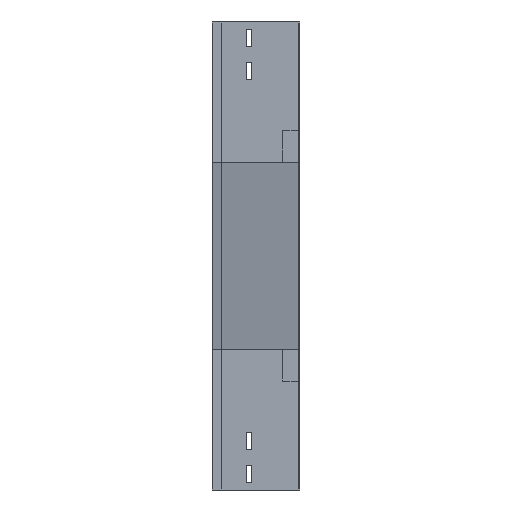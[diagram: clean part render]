
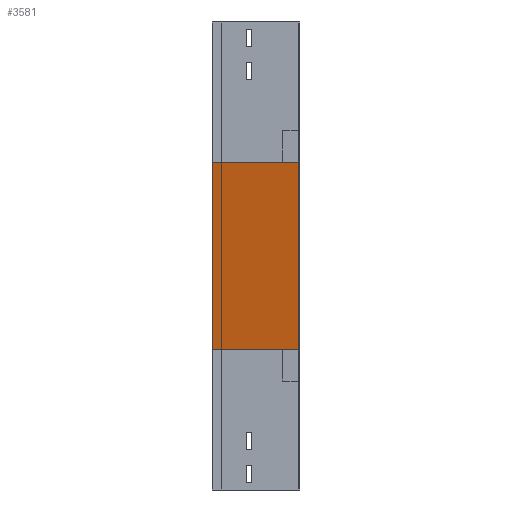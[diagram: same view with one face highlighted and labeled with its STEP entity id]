
A CAD part, left-side view. The second image highlights one B-rep face of the part: STEP entity #3581.
In plain terms, the highlighted planar face has unit normal (-0.979, 0, -0.204).
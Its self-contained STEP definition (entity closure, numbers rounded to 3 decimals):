
#4 = VERTEX_POINT ( 'NONE', #1993 ) ;
#146 = ORIENTED_EDGE ( 'NONE', *, *, #193, .F. ) ;
#193 = EDGE_CURVE ( 'NONE', #2523, #4, #230, .T. ) ;
#230 = LINE ( 'NONE', #2691, #3773 ) ;
#357 = DIRECTION ( 'NONE',  ( 0.204, 0., -0.979 ) ) ;
#398 = VECTOR ( 'NONE', #2767, 1000. ) ;
#427 = CARTESIAN_POINT ( 'NONE',  ( 50., 0., -420. ) ) ;
#492 = VERTEX_POINT ( 'NONE', #2320 ) ;
#541 = VECTOR ( 'NONE', #2987, 1000. ) ;
#921 = LINE ( 'NONE', #1196, #3044 ) ;
#1196 = CARTESIAN_POINT ( 'NONE',  ( 50., 0., -420. ) ) ;
#1277 = EDGE_CURVE ( 'NONE', #2574, #492, #921, .T. ) ;
#1808 = CARTESIAN_POINT ( 'NONE',  ( 0., 112.5, -180. ) ) ;
#1950 = EDGE_CURVE ( 'NONE', #4, #2574, #2745, .T. ) ;
#1993 = CARTESIAN_POINT ( 'NONE',  ( 0., 0., -180. ) ) ;
#2078 = LINE ( 'NONE', #1808, #541 ) ;
#2146 = CARTESIAN_POINT ( 'NONE',  ( 0., 0., -180. ) ) ;
#2181 = FACE_OUTER_BOUND ( 'NONE', #3250, .T. ) ;
#2215 = PLANE ( 'NONE',  #2993 ) ;
#2320 = CARTESIAN_POINT ( 'NONE',  ( 50., 112.5, -420. ) ) ;
#2403 = ORIENTED_EDGE ( 'NONE', *, *, #2580, .T. ) ;
#2473 = ORIENTED_EDGE ( 'NONE', *, *, #1950, .F. ) ;
#2523 = VERTEX_POINT ( 'NONE', #3549 ) ;
#2574 = VERTEX_POINT ( 'NONE', #427 ) ;
#2580 = EDGE_CURVE ( 'NONE', #2523, #492, #2078, .T. ) ;
#2691 = CARTESIAN_POINT ( 'NONE',  ( 0., 0., -180. ) ) ;
#2745 = LINE ( 'NONE', #2146, #398 ) ;
#2767 = DIRECTION ( 'NONE',  ( 0.204, 0., -0.979 ) ) ;
#2791 = ORIENTED_EDGE ( 'NONE', *, *, #1277, .F. ) ;
#2813 = DIRECTION ( 'NONE',  ( 0., 1., 0. ) ) ;
#2987 = DIRECTION ( 'NONE',  ( 0.204, 0., -0.979 ) ) ;
#2993 = AXIS2_PLACEMENT_3D ( 'NONE', #3441, #3124, #357 ) ;
#3044 = VECTOR ( 'NONE', #2813, 1000. ) ;
#3124 = DIRECTION ( 'NONE',  ( 0.979, 0., 0.204 ) ) ;
#3250 = EDGE_LOOP ( 'NONE', ( #2473, #146, #2403, #2791 ) ) ;
#3441 = CARTESIAN_POINT ( 'NONE',  ( 0., 0., -180. ) ) ;
#3549 = CARTESIAN_POINT ( 'NONE',  ( 0., 112.5, -180. ) ) ;
#3581 = ADVANCED_FACE ( 'NONE', ( #2181 ), #2215, .F. ) ;
#3679 = DIRECTION ( 'NONE',  ( 0., -1., 0. ) ) ;
#3773 = VECTOR ( 'NONE', #3679, 1000. ) ;
